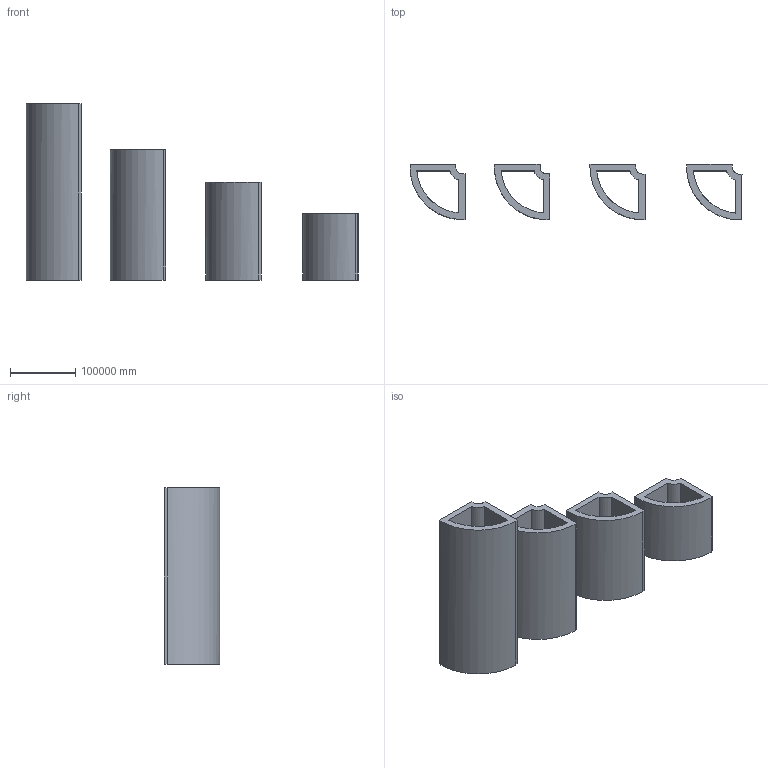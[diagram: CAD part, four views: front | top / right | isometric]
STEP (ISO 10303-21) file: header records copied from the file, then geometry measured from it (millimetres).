
FILE_DESCRIPTION(/* description */ (''),/* implementation_level */ '2;1');
FILE_NAME(/* name */ 'CORNER_90ROUND_FERRES',/* time_stamp */ '2023-09-19T15:59:51+02:00',/* author */ (''),/* organization */ (''),/* preprocessor_version */ 'ST-DEVELOPER v16.5',/* originating_system */ 'Rhino 7.15',/* authorisation */ '');
FILE_SCHEMA (('AUTOMOTIVE_DESIGN'));
Length unit declared in the file: metre
Products named in the file (1): Document
Bounding box: 509064.9 x 84853.24 x 270000 mm (x, y, z)
Volume: 1879793123942789 mm3; surface area: 397198074106.2 mm2
Topology: 4 solids, 4 shells, 56 faces, 144 edges, 96 vertices
Faces by surface type: bspline 56
Entity records: 3173 total; most frequent: CARTESIAN_POINT 1474, ORIENTED_EDGE 288, PCURVE 288, DEFINITIONAL_REPRESENTATION 288, B_SPLINE_CURVE_WITH_KNOTS 192, SURFACE_CURVE 144, EDGE_CURVE 144, VERTEX_POINT 96
